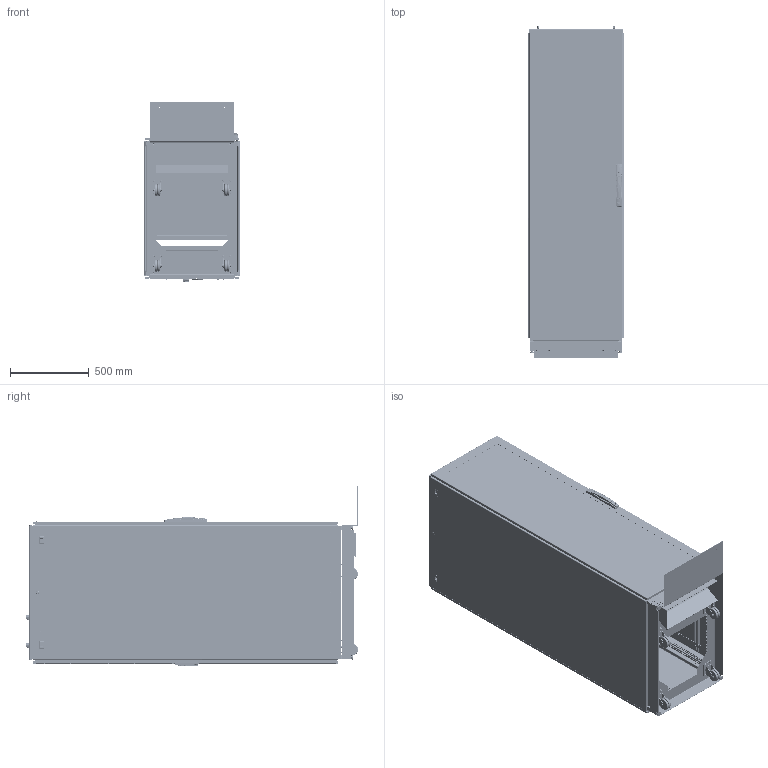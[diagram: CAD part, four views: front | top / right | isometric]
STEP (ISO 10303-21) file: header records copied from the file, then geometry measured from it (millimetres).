
FILE_DESCRIPTION (( 'STEP AP203' ), '1' );
FILE_NAME ('psfd2069b.STEP', '2019-11-05T18:46:14', ( '' ), ( '' ), 'SwSTEP 2.0', 'SolidWorks 2016', '' );
FILE_SCHEMA (( 'CONFIG_CONTROL_DESIGN' ));
Length unit declared in the file: millimetre
Products named in the file (129): 89053434; 60127140_60127140; 89056764; 11258507; 87792979; 11158140_11158140; 89056432; 87576034_87576034; 87950638_87950638; 87746964; 87403130_87403130; 11158474_11158474; 11258030_11258030; 46120001_Compressed; 30127077; 11258013; 89056314; 60127093; 91120001_91120001; 99401206_SI-HWMS 0.19-32x0.5x0.5-C; 11258012; 60127277_60127277; 89056402; 60127172_60127172; 87793740_87793740; 99401225; 64201001; 87794725; 87932266; 60127173_60127173; 87795190; 11358765; 60127101_60127101; 11258029_11258029; 89056315; 51137001; 87792981; 60100041_60100041; 99401452; 87575758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
Assembly tree (351 placements, depth 5):
  psfd2069b
    87786832_87786832
      60127013  x8
      30127014  x4
      30127077  x4
      30127061  x4
      87786838_87786838  x6
    87795190
      89056680
        89056681
        60127101_60127101  x2
        87920638_87920638  x6
        60100041_60100041  x2
          87931527_87931527
          87931368_SLEEVE
        60127172_60127172  x3
      20127259_20127259
        89091664_875472289  x4
        89101845  x4
        89107551_60127141  x2
        60127383_60127383  x2
      87553317
      87576034_87576034  x4
      87562939_87562939  x6
      60127224_60127224
        60127106_60127106
        60127175_60127175  x2
        60127216_60127216  x3
          60127140_60127140
          60127138_60127138
          87576035_87576035
        60127139_60127139  x4
        11158132_THIKNESS .155 FIXED  x8
        11158133_11581133  x3
      60127277_60127277  x3
        51232001_51232001
        60127173_60127173
      60127430
        11458037
        11458036
        51140001
        11358764
        11258013
        11258012
        11358763
        51231001
        11258014
        46139001_46139001  x2
        51145001_Extended
        11358765
        46120001_Compressed
        51223001
        51138001_Compressed
        60127093
        51137001
        60127208
        60127212
        60127207
      87792981  x2
      87792979  x2
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Bounding box: 610.88 x 2105.91 x 1145.71 mm (x, y, z)
Volume: 24620928.6 mm3; surface area: 24348954.1 mm2
Topology: 454 solids, 483 shells, 30807 faces, 82099 edges, 52722 vertices
Faces by surface type: plane 17121, cylinder 9254, torus 1885, cone 1361, bspline 1146, sphere 40
Entity records: 398829 total; most frequent: CARTESIAN_POINT 108087, ORIENTED_EDGE 56716, DIRECTION 55066, EDGE_CURVE 28376, AXIS2_PLACEMENT_3D 18998, VERTEX_POINT 18223, LINE 17070, VECTOR 17070
